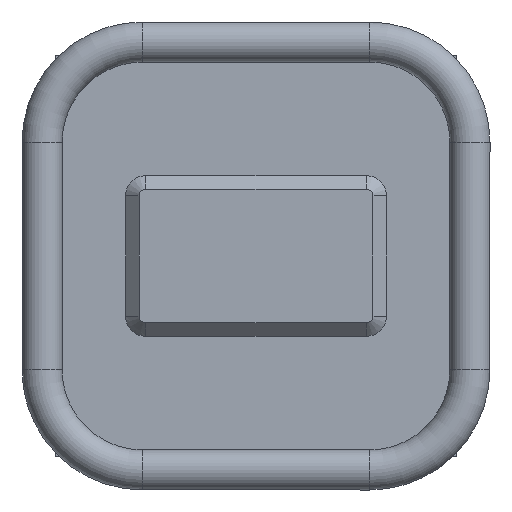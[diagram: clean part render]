
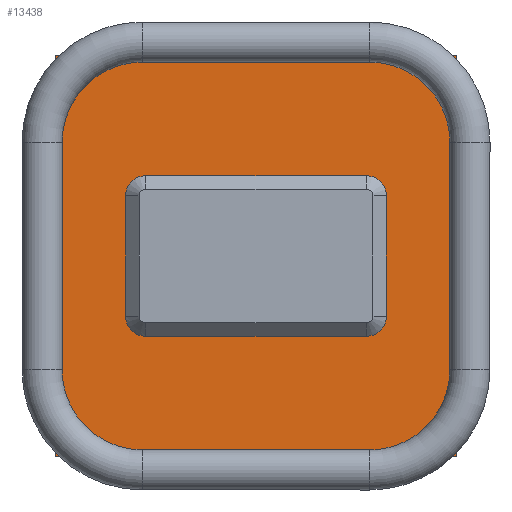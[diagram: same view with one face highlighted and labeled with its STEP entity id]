
A CAD part, front view. The second image highlights one B-rep face of the part: STEP entity #13438.
In plain terms, the highlighted planar face has unit normal (0, -1, 0).
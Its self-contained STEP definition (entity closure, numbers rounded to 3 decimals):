
#2086=LINE('',#23736,#3225);
#2089=LINE('',#23747,#3228);
#2093=LINE('',#23759,#3232);
#2097=LINE('',#23771,#3236);
#2104=LINE('',#23788,#3243);
#2105=LINE('',#23790,#3244);
#2106=LINE('',#23792,#3245);
#2107=LINE('',#23793,#3246);
#3225=VECTOR('',#15788,66.);
#3228=VECTOR('',#15799,36.);
#3232=VECTOR('',#15811,66.);
#3236=VECTOR('',#15823,36.);
#3243=VECTOR('',#15846,120.);
#3244=VECTOR('',#15847,120.);
#3245=VECTOR('',#15848,120.);
#3246=VECTOR('',#15849,120.);
#3582=PLANE('',#13871);
#3707=FACE_BOUND('',#5197,.T.);
#4404=FACE_OUTER_BOUND('',#5196,.T.);
#5196=EDGE_LOOP('',(#11951,#11952,#11953,#11954));
#5197=EDGE_LOOP('',(#11955,#11956,#11957,#11958,#11959,#11960,#11961,#11962));
#5270=CIRCLE('',#13853,6.);
#5272=CIRCLE('',#13857,6.);
#5274=CIRCLE('',#13861,6.);
#5276=CIRCLE('',#13865,6.);
#6492=VERTEX_POINT('',#23729);
#6495=VERTEX_POINT('',#23734);
#6497=VERTEX_POINT('',#23739);
#6499=VERTEX_POINT('',#23745);
#6501=VERTEX_POINT('',#23751);
#6503=VERTEX_POINT('',#23757);
#6505=VERTEX_POINT('',#23763);
#6507=VERTEX_POINT('',#23769);
#6508=VERTEX_POINT('',#23786);
#6509=VERTEX_POINT('',#23787);
#6510=VERTEX_POINT('',#23789);
#6511=VERTEX_POINT('',#23791);
#8308=EDGE_CURVE('',#6495,#6492,#2086,.T.);
#8310=EDGE_CURVE('',#6497,#6495,#5270,.T.);
#8313=EDGE_CURVE('',#6499,#6497,#2089,.T.);
#8316=EDGE_CURVE('',#6501,#6499,#5272,.T.);
#8319=EDGE_CURVE('',#6503,#6501,#2093,.T.);
#8322=EDGE_CURVE('',#6505,#6503,#5274,.T.);
#8325=EDGE_CURVE('',#6507,#6505,#2097,.T.);
#8327=EDGE_CURVE('',#6492,#6507,#5276,.T.);
#8334=EDGE_CURVE('',#6508,#6509,#2104,.T.);
#8335=EDGE_CURVE('',#6510,#6508,#2105,.T.);
#8336=EDGE_CURVE('',#6511,#6510,#2106,.T.);
#8337=EDGE_CURVE('',#6509,#6511,#2107,.T.);
#11951=ORIENTED_EDGE('',*,*,#8334,.F.);
#11952=ORIENTED_EDGE('',*,*,#8335,.F.);
#11953=ORIENTED_EDGE('',*,*,#8336,.F.);
#11954=ORIENTED_EDGE('',*,*,#8337,.F.);
#11955=ORIENTED_EDGE('',*,*,#8308,.F.);
#11956=ORIENTED_EDGE('',*,*,#8310,.F.);
#11957=ORIENTED_EDGE('',*,*,#8313,.F.);
#11958=ORIENTED_EDGE('',*,*,#8316,.F.);
#11959=ORIENTED_EDGE('',*,*,#8319,.F.);
#11960=ORIENTED_EDGE('',*,*,#8322,.F.);
#11961=ORIENTED_EDGE('',*,*,#8325,.F.);
#11962=ORIENTED_EDGE('',*,*,#8327,.F.);
#13438=ADVANCED_FACE('',(#4404,#3707),#3582,.F.);
#13853=AXIS2_PLACEMENT_3D('',#23741,#15792,#15793);
#13857=AXIS2_PLACEMENT_3D('',#23753,#15804,#15805);
#13861=AXIS2_PLACEMENT_3D('',#23765,#15816,#15817);
#13865=AXIS2_PLACEMENT_3D('',#23774,#15827,#15828);
#13871=AXIS2_PLACEMENT_3D('',#23785,#15844,#15845);
#15788=DIRECTION('',(-1.,0.,0.));
#15792=DIRECTION('center_axis',(0.,-1.,0.));
#15793=DIRECTION('ref_axis',(1.,0.,0.));
#15799=DIRECTION('',(0.,0.,1.));
#15804=DIRECTION('center_axis',(0.,-1.,0.));
#15805=DIRECTION('ref_axis',(0.,0.,-1.));
#15811=DIRECTION('',(1.,0.,0.));
#15816=DIRECTION('center_axis',(0.,-1.,0.));
#15817=DIRECTION('ref_axis',(-1.,0.,0.));
#15823=DIRECTION('',(0.,0.,-1.));
#15827=DIRECTION('center_axis',(0.,-1.,0.));
#15828=DIRECTION('ref_axis',(0.,0.,1.));
#15844=DIRECTION('center_axis',(0.,1.,0.));
#15845=DIRECTION('ref_axis',(0.,0.,1.));
#15846=DIRECTION('',(-1.,0.,0.));
#15847=DIRECTION('',(0.,0.,-1.));
#15848=DIRECTION('',(1.,0.,0.));
#15849=DIRECTION('',(0.,0.,1.));
#23729=CARTESIAN_POINT('',(-33.,0.,24.));
#23734=CARTESIAN_POINT('',(33.,0.,24.));
#23736=CARTESIAN_POINT('',(-16.5,0.,24.));
#23739=CARTESIAN_POINT('',(39.,0.,18.));
#23741=CARTESIAN_POINT('Origin',(33.,0.,18.));
#23745=CARTESIAN_POINT('',(39.,0.,-18.));
#23747=CARTESIAN_POINT('',(39.,0.,9.));
#23751=CARTESIAN_POINT('',(33.,0.,-24.));
#23753=CARTESIAN_POINT('Origin',(33.,0.,-18.));
#23757=CARTESIAN_POINT('',(-33.,0.,-24.));
#23759=CARTESIAN_POINT('',(16.5,0.,-24.));
#23763=CARTESIAN_POINT('',(-39.,0.,-18.));
#23765=CARTESIAN_POINT('Origin',(-33.,0.,-18.));
#23769=CARTESIAN_POINT('',(-39.,0.,18.));
#23771=CARTESIAN_POINT('',(-39.,0.,-9.));
#23774=CARTESIAN_POINT('Origin',(-33.,0.,18.));
#23785=CARTESIAN_POINT('Origin',(0.,0.,0.));
#23786=CARTESIAN_POINT('',(60.,0.,-60.));
#23787=CARTESIAN_POINT('',(-60.,0.,-60.));
#23788=CARTESIAN_POINT('',(60.,0.,-60.));
#23789=CARTESIAN_POINT('',(60.,0.,60.));
#23790=CARTESIAN_POINT('',(60.,0.,60.));
#23791=CARTESIAN_POINT('',(-60.,0.,60.));
#23792=CARTESIAN_POINT('',(-60.,0.,60.));
#23793=CARTESIAN_POINT('',(-60.,0.,-60.));
